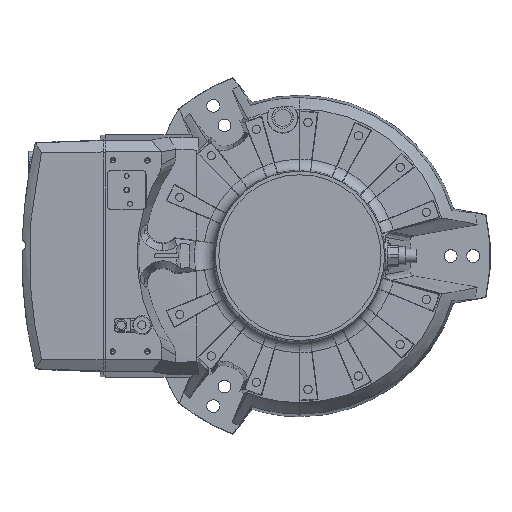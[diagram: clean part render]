
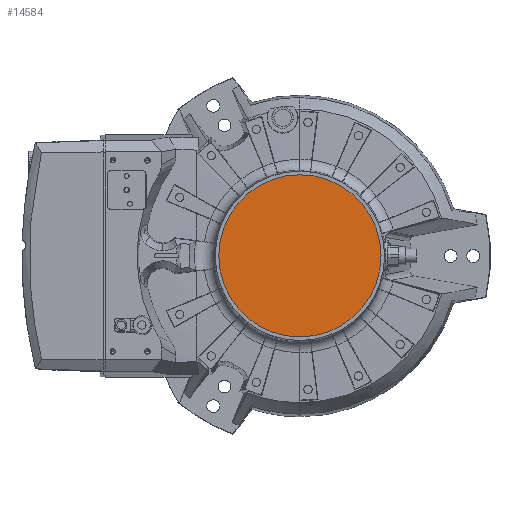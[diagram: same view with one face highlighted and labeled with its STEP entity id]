
A CAD part, top view. The second image highlights one B-rep face of the part: STEP entity #14584.
In plain terms, the highlighted planar face has unit normal (0, 0, 1).
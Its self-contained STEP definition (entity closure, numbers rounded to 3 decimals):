
#904 = FACE_OUTER_BOUND ( 'NONE', #11303, .T. ) ;
#1755 = CARTESIAN_POINT ( 'NONE',  ( 117., 0., 159.5 ) ) ;
#2209 = DIRECTION ( 'NONE',  ( -1., 0., 0. ) ) ;
#2381 = VERTEX_POINT ( 'NONE', #3321 ) ;
#3321 = CARTESIAN_POINT ( 'NONE',  ( -117., 0., 159.5 ) ) ;
#3793 = DIRECTION ( 'NONE',  ( -1., 0., 0. ) ) ;
#3943 = CARTESIAN_POINT ( 'NONE',  ( 0., 0., 159.5 ) ) ;
#4912 = AXIS2_PLACEMENT_3D ( 'NONE', #10872, #8434, #2209 ) ;
#7589 = EDGE_CURVE ( 'NONE', #22694, #2381, #12103, .T. ) ;
#8414 = AXIS2_PLACEMENT_3D ( 'NONE', #3943, #8558, #3793 ) ;
#8434 = DIRECTION ( 'NONE',  ( 0., 0., 1. ) ) ;
#8558 = DIRECTION ( 'NONE',  ( 0., 0., 1. ) ) ;
#10408 = DIRECTION ( 'NONE',  ( 0., -1., 0. ) ) ;
#10462 = CIRCLE ( 'NONE', #4912, 117. ) ;
#10872 = CARTESIAN_POINT ( 'NONE',  ( 0., 0., 159.5 ) ) ;
#11303 = EDGE_LOOP ( 'NONE', ( #14276, #26780 ) ) ;
#12103 = CIRCLE ( 'NONE', #8414, 117. ) ;
#12192 = EDGE_CURVE ( 'NONE', #2381, #22694, #10462, .T. ) ;
#12989 = AXIS2_PLACEMENT_3D ( 'NONE', #25905, #28201, #10408 ) ;
#14181 = PLANE ( 'NONE',  #12989 ) ;
#14276 = ORIENTED_EDGE ( 'NONE', *, *, #12192, .T. ) ;
#14584 = ADVANCED_FACE ( 'NONE', ( #904 ), #14181, .F. ) ;
#22694 = VERTEX_POINT ( 'NONE', #1755 ) ;
#25905 = CARTESIAN_POINT ( 'NONE',  ( -116.2, 0., 159.5 ) ) ;
#26780 = ORIENTED_EDGE ( 'NONE', *, *, #7589, .T. ) ;
#28201 = DIRECTION ( 'NONE',  ( 0., 0., -1. ) ) ;
